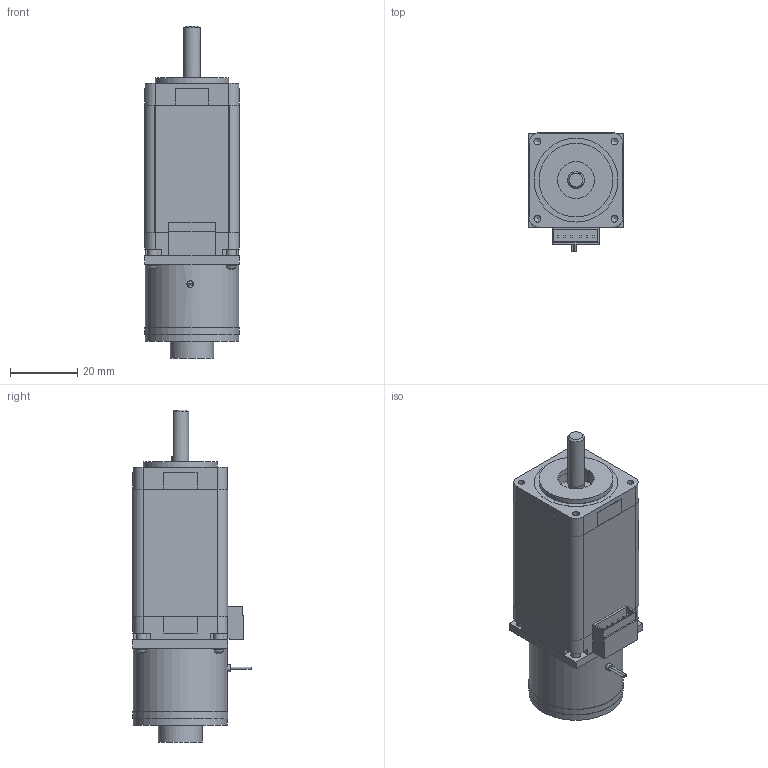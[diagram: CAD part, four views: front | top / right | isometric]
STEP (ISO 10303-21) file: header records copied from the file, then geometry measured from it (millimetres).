
FILE_DESCRIPTION(/* description */ (''),/* implementation_level */ '2;1');
FILE_NAME(/* name */ 'UB28D24-D10-452.stp',/* time_stamp */ '2018-08-17T15:22:54+08:00',/* author */ (''),/* organization */ (''),/* preprocessor_version */ 'ST-DEVELOPER v11',/* originating_system */ 'SIEMENS UGS NX 6.0',/* authorisation */ '');
FILE_SCHEMA (('CONFIG_CONTROL_DESIGN'));
Length unit declared in the file: millimetre
Products named in the file (1): UB28D24-D10-452
Bounding box: 28.2 x 35.2 x 99 mm (x, y, z)
Volume: 87340.6 mm3; surface area: 18634.3 mm2
Topology: 14 solids, 19 shells, 311 faces, 754 edges, 505 vertices
Faces by surface type: plane 264, cylinder 38, cone 5, bspline 4
Full cylindrical faces by diameter (mm): 0.7 x2, 2 x1, 2.05 x4, 3 x8, 5 x3, 6 x1, 10 x1, 11 x2, 13 x1, 14.3 x1, 22 x2, 25 x1, 28 x2, 28.2 x1
Entity records: 9105 total; most frequent: CARTESIAN_POINT 2042, ORIENTED_EDGE 1382, DIRECTION 1349, EDGE_CURVE 691, LINE 547, VECTOR 547, VERTEX_POINT 484, AXIS2_PLACEMENT_3D 401
